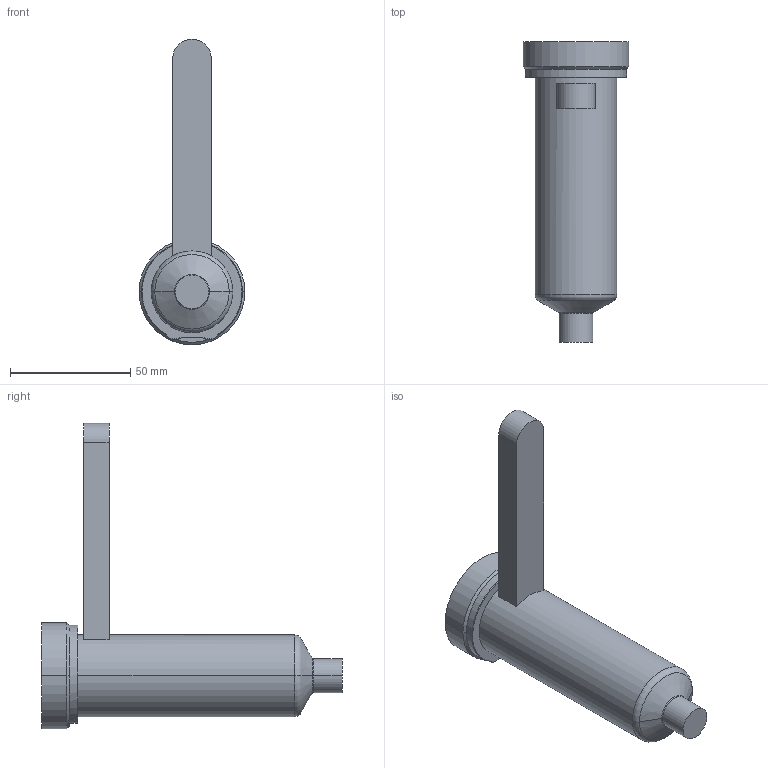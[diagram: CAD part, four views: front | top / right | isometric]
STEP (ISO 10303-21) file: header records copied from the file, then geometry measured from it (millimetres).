
FILE_DESCRIPTION((''),'2;1');
FILE_NAME('EO10_PG-FBE_STD_100_COT','2024-02-19T11:58:21',('sundharh'),(''),'CREO PARAMETRIC BY PTC INC, 2023154','CREO PARAMETRIC BY PTC INC, 2023154','');
FILE_SCHEMA(('CONFIG_CONTROL_DESIGN'));
Length unit declared in the file: millimetre
Products named in the file (1): EO10_PG-FBE_STD_100_COT
Bounding box: 44 x 125 x 127 mm (x, y, z)
Volume: 124887.7 mm3; surface area: 20032.6 mm2
Topology: 1 solids, 1 shells, 31 faces, 67 edges, 40 vertices
Faces by surface type: cylinder 11, plane 9, torus 7, cone 4
Entity records: 959 total; most frequent: CARTESIAN_POINT 226, DIRECTION 159, ORIENTED_EDGE 134, AXIS2_PLACEMENT_3D 67, EDGE_CURVE 67, VERTEX_POINT 40, CIRCLE 36, EDGE_LOOP 33
